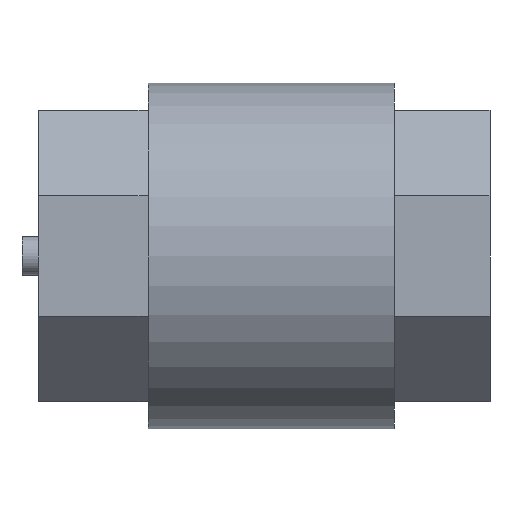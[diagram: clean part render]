
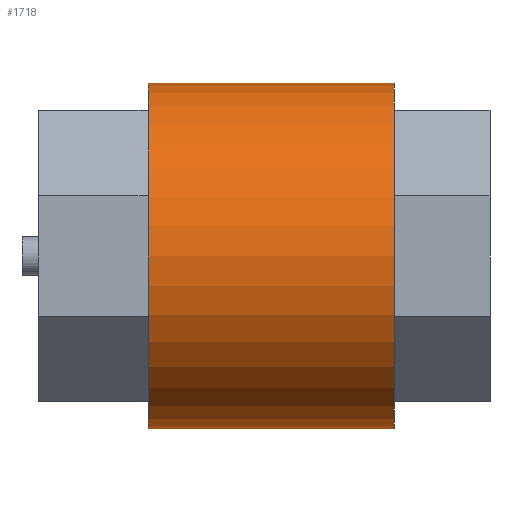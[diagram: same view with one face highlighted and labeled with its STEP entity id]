
A CAD part, front view. The second image highlights one B-rep face of the part: STEP entity #1718.
In plain terms, the highlighted cylindrical face has radius 0.885 mm (diameter 1.77 mm), a full revolution.
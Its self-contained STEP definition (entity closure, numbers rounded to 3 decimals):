
#828 = EDGE_CURVE('',#829,#829,#831,.T.);
#829 = VERTEX_POINT('',#830);
#830 = CARTESIAN_POINT('',(1.82,0.885,0.));
#831 = SURFACE_CURVE('',#832,(#837,#853),.PCURVE_S1.);
#832 = CIRCLE('',#833,0.885);
#833 = AXIS2_PLACEMENT_3D('',#834,#835,#836);
#834 = CARTESIAN_POINT('',(1.82,0.,0.)
  );
#835 = DIRECTION('',(-1.,0.,0.));
#836 = DIRECTION('',(0.,1.,0.));
#837 = PCURVE('',#838,#843);
#838 = PLANE('',#839);
#839 = AXIS2_PLACEMENT_3D('',#840,#841,#842);
#840 = CARTESIAN_POINT('',(1.82,0.,0.)
  );
#841 = DIRECTION('',(1.,0.,0.));
#842 = DIRECTION('',(0.,0.,-1.));
#843 = DEFINITIONAL_REPRESENTATION('',(#844),#852);
#844 = ( BOUNDED_CURVE() B_SPLINE_CURVE(2,(#845,#846,#847,#848,#849,#850
,#851),.UNSPECIFIED.,.T.,.F.) B_SPLINE_CURVE_WITH_KNOTS((1,2,2,2,2,1),(
    -2.094,0.,2.094,4.189,6.283,
8.378),.UNSPECIFIED.) CURVE() GEOMETRIC_REPRESENTATION_ITEM() 
RATIONAL_B_SPLINE_CURVE((1.,0.5,1.,0.5,1.,0.5,1.)) REPRESENTATION_ITEM(
  '') );
#845 = CARTESIAN_POINT('',(0.,0.885));
#846 = CARTESIAN_POINT('',(1.533,0.885));
#847 = CARTESIAN_POINT('',(0.766,-0.443));
#848 = CARTESIAN_POINT('',(0.,-1.77));
#849 = CARTESIAN_POINT('',(-0.766,-0.443));
#850 = CARTESIAN_POINT('',(-1.533,0.885));
#851 = CARTESIAN_POINT('',(0.,0.885));
#852 = ( GEOMETRIC_REPRESENTATION_CONTEXT(2) 
PARAMETRIC_REPRESENTATION_CONTEXT() REPRESENTATION_CONTEXT('2D SPACE',''
  ) );
#853 = PCURVE('',#854,#859);
#854 = CYLINDRICAL_SURFACE('',#855,0.885);
#855 = AXIS2_PLACEMENT_3D('',#856,#857,#858);
#856 = CARTESIAN_POINT('',(0.56,0.,0.)
  );
#857 = DIRECTION('',(1.,0.,0.));
#858 = DIRECTION('',(-0.,1.,0.));
#859 = DEFINITIONAL_REPRESENTATION('',(#860),#864);
#860 = LINE('',#861,#862);
#861 = CARTESIAN_POINT('',(6.283,1.26));
#862 = VECTOR('',#863,1.);
#863 = DIRECTION('',(-1.,0.));
#864 = ( GEOMETRIC_REPRESENTATION_CONTEXT(2) 
PARAMETRIC_REPRESENTATION_CONTEXT() REPRESENTATION_CONTEXT('2D SPACE',''
  ) );
#1118 = PLANE('',#1119);
#1119 = AXIS2_PLACEMENT_3D('',#1120,#1121,#1122);
#1120 = CARTESIAN_POINT('',(0.56,0.,0.)
  );
#1121 = DIRECTION('',(1.,0.,0.));
#1122 = DIRECTION('',(0.,0.,-1.));
#1718 = ADVANCED_FACE('',(#1719),#854,.T.);
#1719 = FACE_BOUND('',#1720,.T.);
#1720 = EDGE_LOOP('',(#1721,#1722,#1744,#1766));
#1721 = ORIENTED_EDGE('',*,*,#828,.T.);
#1722 = ORIENTED_EDGE('',*,*,#1723,.F.);
#1723 = EDGE_CURVE('',#1724,#829,#1726,.T.);
#1724 = VERTEX_POINT('',#1725);
#1725 = CARTESIAN_POINT('',(0.56,0.885,0.));
#1726 = SEAM_CURVE('',#1727,(#1730,#1737),.PCURVE_S1.);
#1727 = B_SPLINE_CURVE_WITH_KNOTS('',1,(#1728,#1729),.UNSPECIFIED.,.F.,
  .F.,(2,2),(0.,1.26),.PIECEWISE_BEZIER_KNOTS.);
#1728 = CARTESIAN_POINT('',(0.56,0.885,0.));
#1729 = CARTESIAN_POINT('',(1.82,0.885,0.));
#1730 = PCURVE('',#854,#1731);
#1731 = DEFINITIONAL_REPRESENTATION('',(#1732),#1736);
#1732 = LINE('',#1733,#1734);
#1733 = CARTESIAN_POINT('',(0.,0.));
#1734 = VECTOR('',#1735,1.);
#1735 = DIRECTION('',(0.,1.));
#1736 = ( GEOMETRIC_REPRESENTATION_CONTEXT(2) 
PARAMETRIC_REPRESENTATION_CONTEXT() REPRESENTATION_CONTEXT('2D SPACE',''
  ) );
#1737 = PCURVE('',#854,#1738);
#1738 = DEFINITIONAL_REPRESENTATION('',(#1739),#1743);
#1739 = LINE('',#1740,#1741);
#1740 = CARTESIAN_POINT('',(6.283,0.));
#1741 = VECTOR('',#1742,1.);
#1742 = DIRECTION('',(0.,1.));
#1743 = ( GEOMETRIC_REPRESENTATION_CONTEXT(2) 
PARAMETRIC_REPRESENTATION_CONTEXT() REPRESENTATION_CONTEXT('2D SPACE',''
  ) );
#1744 = ORIENTED_EDGE('',*,*,#1745,.T.);
#1745 = EDGE_CURVE('',#1724,#1724,#1746,.T.);
#1746 = SURFACE_CURVE('',#1747,(#1752,#1759),.PCURVE_S1.);
#1747 = CIRCLE('',#1748,0.885);
#1748 = AXIS2_PLACEMENT_3D('',#1749,#1750,#1751);
#1749 = CARTESIAN_POINT('',(0.56,0.,0.)
  );
#1750 = DIRECTION('',(1.,0.,0.));
#1751 = DIRECTION('',(-0.,1.,0.));
#1752 = PCURVE('',#854,#1753);
#1753 = DEFINITIONAL_REPRESENTATION('',(#1754),#1758);
#1754 = LINE('',#1755,#1756);
#1755 = CARTESIAN_POINT('',(0.,0.));
#1756 = VECTOR('',#1757,1.);
#1757 = DIRECTION('',(1.,0.));
#1758 = ( GEOMETRIC_REPRESENTATION_CONTEXT(2) 
PARAMETRIC_REPRESENTATION_CONTEXT() REPRESENTATION_CONTEXT('2D SPACE',''
  ) );
#1759 = PCURVE('',#1118,#1760);
#1760 = DEFINITIONAL_REPRESENTATION('',(#1761),#1765);
#1761 = CIRCLE('',#1762,0.885);
#1762 = AXIS2_PLACEMENT_2D('',#1763,#1764);
#1763 = CARTESIAN_POINT('',(0.,0.));
#1764 = DIRECTION('',(0.,1.));
#1765 = ( GEOMETRIC_REPRESENTATION_CONTEXT(2) 
PARAMETRIC_REPRESENTATION_CONTEXT() REPRESENTATION_CONTEXT('2D SPACE',''
  ) );
#1766 = ORIENTED_EDGE('',*,*,#1723,.T.);
